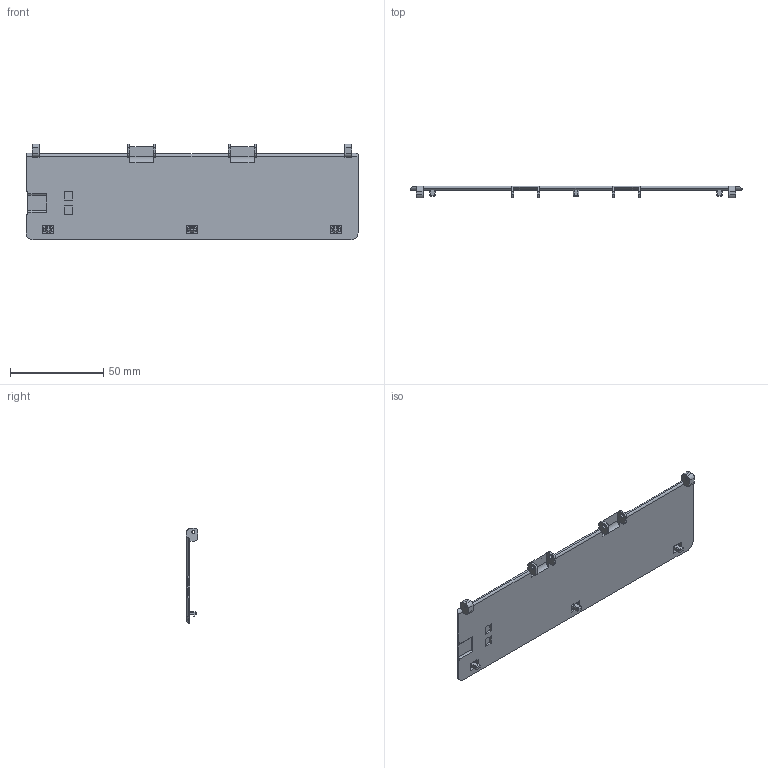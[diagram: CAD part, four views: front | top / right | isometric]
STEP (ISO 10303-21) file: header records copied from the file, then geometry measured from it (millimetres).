
FILE_DESCRIPTION((''),'2;1');
FILE_NAME('00','2025-04-08T12:12:21',('seeed'),(''),'CREO PARAMETRIC BY PTC INC, 2021404','CREO PARAMETRIC BY PTC INC, 2021404','');
FILE_SCHEMA(('AUTOMOTIVE_DESIGN { 1 0 10303 214 1 1 1 1 }'));
Length unit declared in the file: millimetre
Products named in the file (1): 00
Bounding box: 178 x 6.3 x 51.4 mm (x, y, z)
Volume: 16209.8 mm3; surface area: 18099.6 mm2
Topology: 1 solids, 3 shells, 197 faces, 511 edges, 336 vertices
Faces by surface type: plane 110, cylinder 73, sphere 6, bspline 6, cone 2
Entity records: 9182 total; most frequent: CARTESIAN_POINT 3615, DIRECTION 1013, ORIENTED_EDGE 1012, EDGE_CURVE 506, VECTOR 349, LINE 349, AXIS2_PLACEMENT_3D 332, VERTEX_POINT 326
